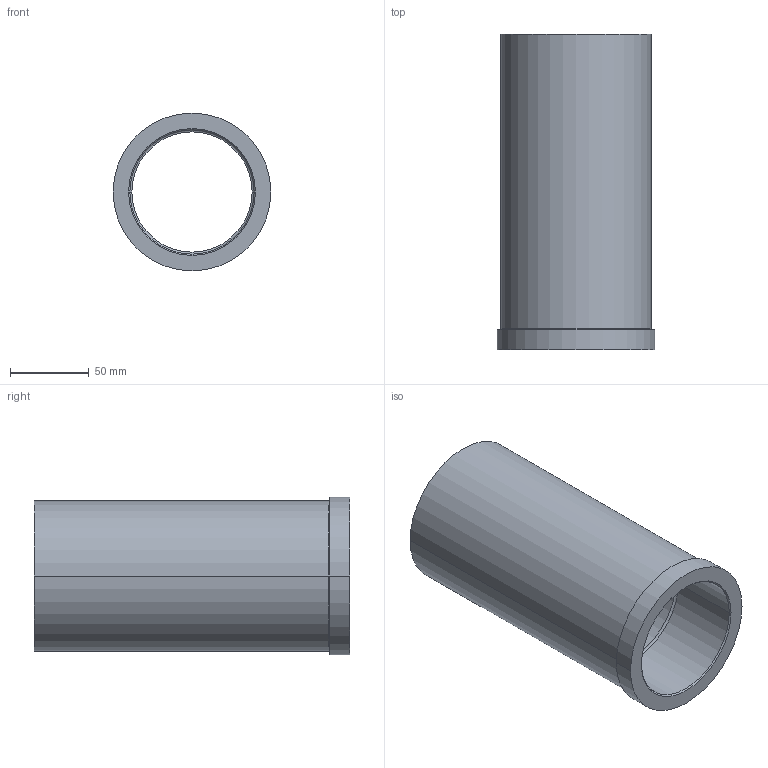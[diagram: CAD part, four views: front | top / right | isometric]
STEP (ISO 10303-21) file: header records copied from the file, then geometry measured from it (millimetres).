
FILE_DESCRIPTION (( 'STEP AP203' ), '1' );
FILE_NAME ('BU-811.step', '2014-02-27T03:08:08', ( '' ), ( '' ), 'SwSTEP 2.0', 'SolidWorks 2009', '' );
FILE_SCHEMA (( 'CONFIG_CONTROL_DESIGN' ));
Length unit declared in the file: inch
Products named in the file (1): BU-811
Bounding box: 100 x 200.03 x 100 mm (x, y, z)
Volume: 507455.7 mm3; surface area: 114802.4 mm2
Topology: 1 solids, 1 shells, 20 faces, 40 edges, 24 vertices
Faces by surface type: cylinder 10, torus 4, plane 4, cone 2
Entity records: 611 total; most frequent: DIRECTION 110, CARTESIAN_POINT 85, ORIENTED_EDGE 80, AXIS2_PLACEMENT_3D 49, EDGE_CURVE 40, CIRCLE 28, EDGE_LOOP 24, VERTEX_POINT 24
